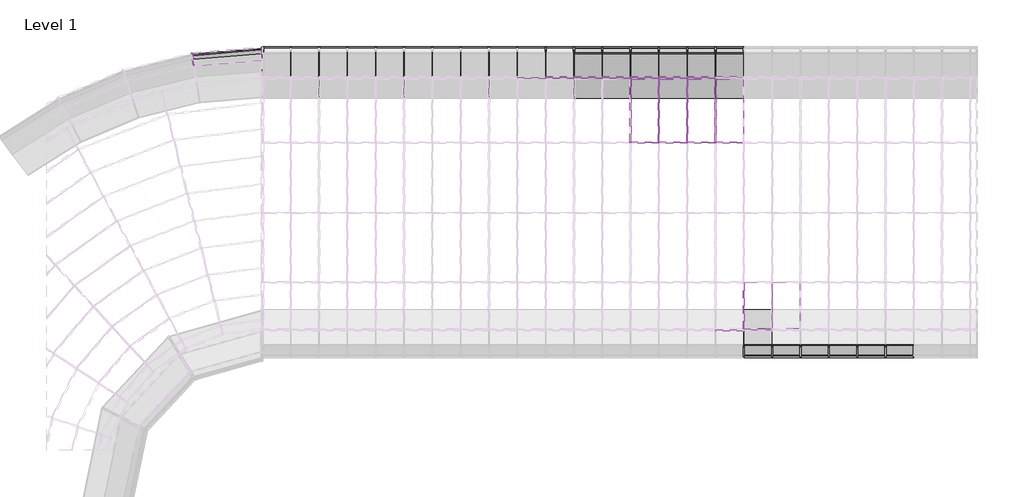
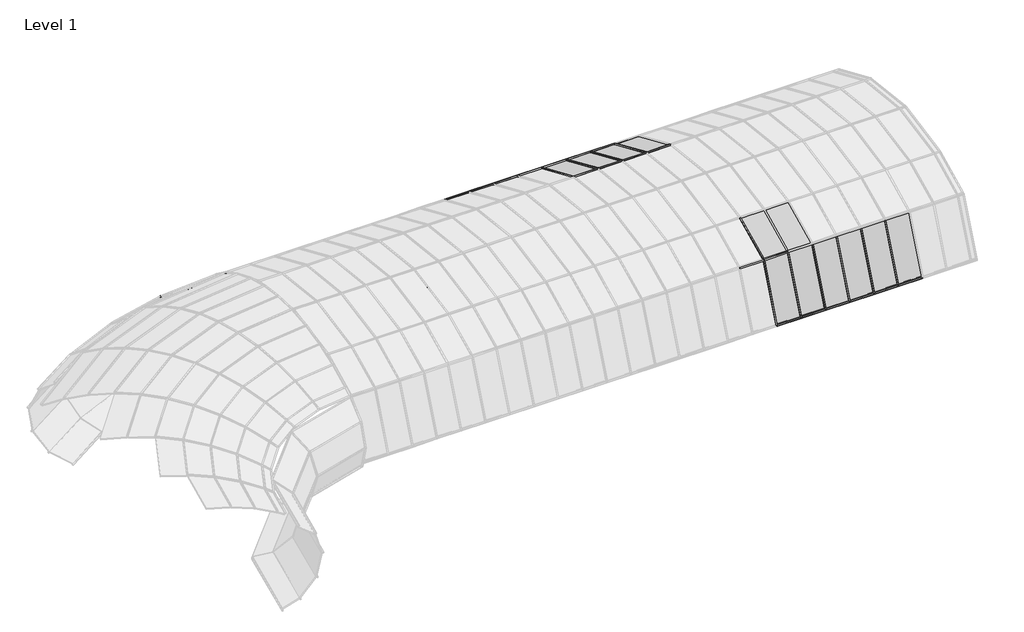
# One storey, part 20 of 23: 91 members, 27 plates.
"""IFC4 building model written with IfcOpenShell, lengths in millimetres."""

from ifc_helpers import new_model, si_unit, origin, place, context, project, spatial, transform, mapped, element, save
from components import member_11ccf896, member_68981e21, member_3e1f1dd8, member_391bee44, member_a479caf8, member_a09e3960, member_0f8f75f6, member_42213d33, member_14e241b9, member_67cfadff, member_9fdc8c74, system_panel_glazed_51f493bd, system_panel_glazed_a1f64e1d, system_panel_glazed_3957fabc, system_panel_glazed_b572a165, system_panel_glazed_7de0f96e

model = new_model("IFC4")

# Units and contexts
model_context = context("Model", 3, world=origin())
ifc_project = project(units=[si_unit("LENGTHUNIT", "METRE", prefix="MILLI")], contexts=[model_context])

# Site, building, storey
site = spatial("IfcSite", under=ifc_project)
building = spatial("IfcBuilding", under=site)
storey = spatial("IfcBuildingStorey", under=building, Name="Level 1", Elevation=0.0)

# Members
placement = place(None, origin())
member_shape = member_11ccf896(model_context)
element("IfcMember", 1, ObjectType="Rectangular Mullion : 1\" Square", at=placement, inside=storey, context=model_context, shape_type="MappedRepresentation", body=[
    mapped(member_shape, transform((-11421.4484397, 8068.4801793, 1232.5089476), x_axis=(0.010719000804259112, -0.13353091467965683, 0.9909866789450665), y_axis=(-0.07929494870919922, 0.9878091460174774, 0.13396044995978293), z_axis=(-0.9967935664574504, -0.08001616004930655, 0.0))),
])
member_2_shape = member_68981e21(model_context)
element("IfcMember", 2, ObjectType="Rectangular Mullion : 1\" Square", at=placement, inside=storey, context=model_context, shape_type="MappedRepresentation", body=[
    mapped(member_2_shape, transform((450.2500186, 2539.8807303, 0.0), x_axis=(0.0, 0.8307182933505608, -0.5566930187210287), y_axis=(0.0, -0.5566930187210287, -0.8307182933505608), z_axis=(-1.0, 0.0, 0.0))),
])
element("IfcMember", 3, ObjectType="Rectangular Mullion : 1\" Square", at=placement, inside=storey, context=model_context, shape_type="MappedRepresentation", body=[
    mapped(member_2_shape, transform((-3207.3499814, 7543.2525753, 2085.6089632), x_axis=(0.0, 0.9167487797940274, -0.3994642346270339), y_axis=(0.0, 0.3994642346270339, 0.9167487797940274), z_axis=(1.0, 0.0, 0.0))),
])
element("IfcMember", 4, ObjectType="Rectangular Mullion : 1\" Square", at=placement, inside=storey, context=model_context, shape_type="MappedRepresentation", body=[
    mapped(member_2_shape, transform((-2597.7499814, 7543.2525753, 2085.6089632), x_axis=(0.0, 0.9167487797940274, -0.3994642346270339), y_axis=(0.0, 0.3994642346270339, 0.9167487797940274), z_axis=(1.0, 0.0, 0.0))),
])
element("IfcMember", 5, ObjectType="Rectangular Mullion : 1\" Square", at=placement, inside=storey, context=model_context, shape_type="MappedRepresentation", body=[
    mapped(member_2_shape, transform((-1988.1499814, 7543.2525753, 2085.6089632), x_axis=(0.0, 0.9167487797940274, -0.3994642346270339), y_axis=(0.0, 0.3994642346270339, 0.9167487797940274), z_axis=(1.0, 0.0, 0.0))),
])
element("IfcMember", 6, ObjectType="Rectangular Mullion : 1\" Square", at=placement, inside=storey, context=model_context, shape_type="MappedRepresentation", body=[
    mapped(member_2_shape, transform((-1378.5499814, 7543.2525753, 2085.6089632), x_axis=(0.0, 0.9167487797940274, -0.3994642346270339), y_axis=(0.0, 0.3994642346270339, 0.9167487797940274), z_axis=(1.0, 0.0, 0.0))),
])
element("IfcMember", 7, ObjectType="Rectangular Mullion : 1\" Square", at=placement, inside=storey, context=model_context, shape_type="MappedRepresentation", body=[
    mapped(member_2_shape, transform((-768.9499814, 7543.2525753, 2085.6089632), x_axis=(0.0, 0.9167487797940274, -0.3994642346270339), y_axis=(0.0, 0.3994642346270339, 0.9167487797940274), z_axis=(1.0, 0.0, 0.0))),
])
element("IfcMember", 8, ObjectType="Rectangular Mullion : 1\" Square", at=placement, inside=storey, context=model_context, shape_type="MappedRepresentation", body=[
    mapped(member_2_shape, transform((-159.3499814, 7543.2525753, 2085.6089632), x_axis=(0.0, 0.9167487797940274, -0.3994642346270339), y_axis=(0.0, 0.3994642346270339, 0.9167487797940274), z_axis=(1.0, 0.0, 0.0))),
])
element("IfcMember", 9, ObjectType="Rectangular Mullion : 1\" Square", at=placement, inside=storey, context=model_context, shape_type="MappedRepresentation", body=[
    mapped(member_2_shape, transform((450.2500186, 2108.5088854, 2085.6089632), x_axis=(0.0, -0.9009025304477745, -0.43402146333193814), y_axis=(0.0, -0.43402146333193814, 0.9009025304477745), z_axis=(-1.0, 0.0, 0.0))),
])
element("IfcMember", 10, ObjectType="Rectangular Mullion : 1\" Square", at=placement, inside=storey, context=model_context, shape_type="MappedRepresentation", body=[
    mapped(member_2_shape, transform((-3816.9499814, 7543.2525753, 2085.6089632), x_axis=(0.0, 0.9167487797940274, -0.3994642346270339), y_axis=(0.0, 0.3994642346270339, 0.9167487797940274), z_axis=(1.0, 0.0, 0.0))),
])
element("IfcMember", 11, ObjectType="Rectangular Mullion : 1\" Square", at=placement, inside=storey, context=model_context, shape_type="MappedRepresentation", body=[
    mapped(member_2_shape, transform((-1378.5499814, 7111.8807303, 0.0), x_axis=(0.0, -0.7134126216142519, -0.7007441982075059), y_axis=(0.0, 0.7007441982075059, -0.7134126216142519), z_axis=(1.0, 0.0, 0.0))),
])
element("IfcMember", 12, ObjectType="Rectangular Mullion : 1\" Square", at=placement, inside=storey, context=model_context, shape_type="MappedRepresentation", body=[
    mapped(member_2_shape, transform((-768.9499814, 7111.8807303, 0.0), x_axis=(0.0, -0.7134126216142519, -0.7007441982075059), y_axis=(0.0, 0.7007441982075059, -0.7134126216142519), z_axis=(1.0, 0.0, 0.0))),
])
element("IfcMember", 13, ObjectType="Rectangular Mullion : 1\" Square", at=placement, inside=storey, context=model_context, shape_type="MappedRepresentation", body=[
    mapped(member_2_shape, transform((-159.3499814, 7111.8807303, 0.0), x_axis=(0.0, -0.7134126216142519, -0.7007441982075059), y_axis=(0.0, 0.7007441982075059, -0.7134126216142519), z_axis=(1.0, 0.0, 0.0))),
])
element("IfcMember", 14, ObjectType="Rectangular Mullion : 1\" Square", at=placement, inside=storey, context=model_context, shape_type="MappedRepresentation", body=[
    mapped(member_2_shape, transform((-3816.9499814, 7111.8807303, 0.0), x_axis=(0.0, -0.7134126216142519, -0.7007441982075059), y_axis=(0.0, 0.7007441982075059, -0.7134126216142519), z_axis=(1.0, 0.0, 0.0))),
])
element("IfcMember", 15, ObjectType="Rectangular Mullion : 1\" Square", at=placement, inside=storey, context=model_context, shape_type="MappedRepresentation", body=[
    mapped(member_2_shape, transform((-3207.3499814, 7111.8807303, 0.0), x_axis=(0.0, -0.7134126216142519, -0.7007441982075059), y_axis=(0.0, 0.7007441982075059, -0.7134126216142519), z_axis=(1.0, 0.0, 0.0))),
])
element("IfcMember", 16, ObjectType="Rectangular Mullion : 1\" Square", at=placement, inside=storey, context=model_context, shape_type="MappedRepresentation", body=[
    mapped(member_2_shape, transform((-2597.7499814, 7111.8807303, 0.0), x_axis=(0.0, -0.7134126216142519, -0.7007441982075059), y_axis=(0.0, 0.7007441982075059, -0.7134126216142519), z_axis=(1.0, 0.0, 0.0))),
])
element("IfcMember", 17, ObjectType="Rectangular Mullion : 1\" Square", at=placement, inside=storey, context=model_context, shape_type="MappedRepresentation", body=[
    mapped(member_2_shape, transform((-1988.1499814, 7111.8807303, 0.0), x_axis=(0.0, -0.7134126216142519, -0.7007441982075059), y_axis=(0.0, 0.7007441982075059, -0.7134126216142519), z_axis=(1.0, 0.0, 0.0))),
])
member_3_shape = member_3e1f1dd8(model_context)
element("IfcMember", 18, ObjectType="Rectangular Mullion : 1\" Square", at=placement, inside=storey, context=model_context, shape_type="MappedRepresentation", body=[
    mapped(member_3_shape, transform((450.2500186, 1534.1192339, 673.9955146), x_axis=(0.0, 0.38018576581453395, -0.9249101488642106), y_axis=(0.0, -0.9249101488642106, -0.38018576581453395), z_axis=(-1.0, 0.0, 0.0))),
])
element("IfcMember", 19, ObjectType="Rectangular Mullion : 1\" Square", at=placement, inside=storey, context=model_context, shape_type="MappedRepresentation", body=[
    mapped(member_3_shape, transform((1059.8500186, 1534.1192339, 673.9955146), x_axis=(0.0, 0.38018576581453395, -0.9249101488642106), y_axis=(0.0, -0.9249101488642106, -0.38018576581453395), z_axis=(-1.0, 0.0, 0.0))),
])
element("IfcMember", 20, ObjectType="Rectangular Mullion : 1\" Square", at=placement, inside=storey, context=model_context, shape_type="MappedRepresentation", body=[
    mapped(member_3_shape, transform((1669.4500186, 1534.1192339, 673.9955146), x_axis=(0.0, 0.38018576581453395, -0.9249101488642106), y_axis=(0.0, -0.9249101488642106, -0.38018576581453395), z_axis=(-1.0, 0.0, 0.0))),
])
element("IfcMember", 21, ObjectType="Rectangular Mullion : 1\" Square", at=placement, inside=storey, context=model_context, shape_type="MappedRepresentation", body=[
    mapped(member_3_shape, transform((2279.0500186, 1534.1192339, 673.9955146), x_axis=(0.0, 0.38018576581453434, -0.9249101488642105), y_axis=(0.0, -0.9249101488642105, -0.38018576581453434), z_axis=(-1.0, 0.0, 0.0))),
])
element("IfcMember", 22, ObjectType="Rectangular Mullion : 1\" Square", at=placement, inside=storey, context=model_context, shape_type="MappedRepresentation", body=[
    mapped(member_3_shape, transform((2888.6500186, 1534.1192339, 673.9955146), x_axis=(0.0, 0.38018576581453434, -0.9249101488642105), y_axis=(0.0, -0.9249101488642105, -0.38018576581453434), z_axis=(-1.0, 0.0, 0.0))),
])
element("IfcMember", 23, ObjectType="Rectangular Mullion : 1\" Square", at=placement, inside=storey, context=model_context, shape_type="MappedRepresentation", body=[
    mapped(member_3_shape, transform((3498.2500186, 1534.1192339, 673.9955146), x_axis=(0.0, 0.38018576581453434, -0.9249101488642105), y_axis=(0.0, -0.9249101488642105, -0.38018576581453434), z_axis=(-1.0, 0.0, 0.0))),
])
element("IfcMember", 24, ObjectType="Rectangular Mullion : 1\" Square", at=placement, inside=storey, context=model_context, shape_type="MappedRepresentation", body=[
    mapped(member_2_shape, transform((450.2500186, 2108.5088854, 2085.6089632), x_axis=(0.0, 0.3768960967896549, 0.9262555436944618), y_axis=(0.0, -0.9262555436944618, 0.3768960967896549), z_axis=(1.0, 0.0, 0.0))),
])
element("IfcMember", 25, ObjectType="Rectangular Mullion : 1\" Square", at=placement, inside=storey, context=model_context, shape_type="MappedRepresentation", body=[
    mapped(member_2_shape, transform((-3816.9499814, 7543.2525753, 2085.6089632), x_axis=(0.0, -0.5417212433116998, 0.8405582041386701), y_axis=(0.0, 0.8405582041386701, 0.5417212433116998), z_axis=(-1.0, 0.0, 0.0))),
])
element("IfcMember", 26, ObjectType="Rectangular Mullion : 1\" Square", at=placement, inside=storey, context=model_context, shape_type="MappedRepresentation", body=[
    mapped(member_2_shape, transform((-3207.3499814, 7543.2525753, 2085.6089632), x_axis=(0.0, -0.5417212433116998, 0.8405582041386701), y_axis=(0.0, 0.8405582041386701, 0.5417212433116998), z_axis=(-1.0, 0.0, 0.0))),
])
element("IfcMember", 27, ObjectType="Rectangular Mullion : 1\" Square", at=placement, inside=storey, context=model_context, shape_type="MappedRepresentation", body=[
    mapped(member_2_shape, transform((-2597.7499814, 7543.2525753, 2085.6089632), x_axis=(0.0, -0.5417212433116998, 0.8405582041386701), y_axis=(0.0, 0.8405582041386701, 0.5417212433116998), z_axis=(-1.0, 0.0, 0.0))),
])
element("IfcMember", 28, ObjectType="Rectangular Mullion : 1\" Square", at=placement, inside=storey, context=model_context, shape_type="MappedRepresentation", body=[
    mapped(member_2_shape, transform((-1988.1499814, 7543.2525753, 2085.6089632), x_axis=(0.0, -0.5417212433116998, 0.8405582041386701), y_axis=(0.0, 0.8405582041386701, 0.5417212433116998), z_axis=(-1.0, 0.0, 0.0))),
])
element("IfcMember", 29, ObjectType="Rectangular Mullion : 1\" Square", at=placement, inside=storey, context=model_context, shape_type="MappedRepresentation", body=[
    mapped(member_2_shape, transform((-1378.5499814, 7543.2525753, 2085.6089632), x_axis=(0.0, -0.5417212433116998, 0.8405582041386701), y_axis=(0.0, 0.8405582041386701, 0.5417212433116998), z_axis=(-1.0, 0.0, 0.0))),
])
element("IfcMember", 30, ObjectType="Rectangular Mullion : 1\" Square", at=placement, inside=storey, context=model_context, shape_type="MappedRepresentation", body=[
    mapped(member_2_shape, transform((-768.9499814, 7543.2525753, 2085.6089632), x_axis=(0.0, -0.5417212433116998, 0.8405582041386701), y_axis=(0.0, 0.8405582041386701, 0.5417212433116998), z_axis=(-1.0, 0.0, 0.0))),
])
element("IfcMember", 31, ObjectType="Rectangular Mullion : 1\" Square", at=placement, inside=storey, context=model_context, shape_type="MappedRepresentation", body=[
    mapped(member_2_shape, transform((-159.3499814, 7543.2525753, 2085.6089632), x_axis=(0.0, -0.5417212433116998, 0.8405582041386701), y_axis=(0.0, 0.8405582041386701, 0.5417212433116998), z_axis=(-1.0, 0.0, 0.0))),
])
element("IfcMember", 32, ObjectType="Rectangular Mullion : 1\" Square", at=placement, inside=storey, context=model_context, shape_type="MappedRepresentation", body=[
    mapped(member_3_shape, transform((-1988.1499814, 6146.1274349, 2694.3924567), x_axis=(0.0, -0.9660596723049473, 0.25831900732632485), y_axis=(0.0, 0.25831900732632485, 0.9660596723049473), z_axis=(-1.0, 0.0, 0.0))),
])
element("IfcMember", 33, ObjectType="Rectangular Mullion : 1\" Square", at=placement, inside=storey, context=model_context, shape_type="MappedRepresentation", body=[
    mapped(member_3_shape, transform((-1378.5499814, 6146.1274349, 2694.3924567), x_axis=(0.0, -0.9660596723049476, 0.258319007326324), y_axis=(0.0, 0.258319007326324, 0.9660596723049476), z_axis=(-1.0, 0.0, 0.0))),
])
element("IfcMember", 34, ObjectType="Rectangular Mullion : 1\" Square", at=placement, inside=storey, context=model_context, shape_type="MappedRepresentation", body=[
    mapped(member_3_shape, transform((-768.9499814, 6146.1274349, 2694.3924567), x_axis=(0.0, -0.9660596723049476, 0.258319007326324), y_axis=(0.0, 0.258319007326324, 0.9660596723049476), z_axis=(-1.0, 0.0, 0.0))),
])
element("IfcMember", 35, ObjectType="Rectangular Mullion : 1\" Square", at=placement, inside=storey, context=model_context, shape_type="MappedRepresentation", body=[
    mapped(member_3_shape, transform((-159.3499814, 6146.1274349, 2694.3924567), x_axis=(0.0, -0.9660596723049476, 0.258319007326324), y_axis=(0.0, 0.258319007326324, 0.9660596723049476), z_axis=(-1.0, 0.0, 0.0))),
])
element("IfcMember", 36, ObjectType="Rectangular Mullion : 1\" Square", at=placement, inside=storey, context=model_context, shape_type="MappedRepresentation", body=[
    mapped(member_3_shape, transform((-9303.3499814, 8199.1215657, 1067.9341581), x_axis=(0.0, 0.017915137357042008, 0.9998395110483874), y_axis=(0.0, 0.9998395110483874, -0.017915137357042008), z_axis=(-1.0, 0.0, 0.0))),
])
element("IfcMember", 37, ObjectType="Rectangular Mullion : 1\" Square", at=placement, inside=storey, context=model_context, shape_type="MappedRepresentation", body=[
    mapped(member_3_shape, transform((-8693.7499814, 8199.1215657, 1067.9341581), x_axis=(0.0, 0.017915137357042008, 0.9998395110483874), y_axis=(0.0, 0.9998395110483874, -0.017915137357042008), z_axis=(-1.0, 0.0, 0.0))),
])
element("IfcMember", 38, ObjectType="Rectangular Mullion : 1\" Square", at=placement, inside=storey, context=model_context, shape_type="MappedRepresentation", body=[
    mapped(member_3_shape, transform((-8084.1499814, 8199.1215657, 1067.9341581), x_axis=(0.0, 0.017915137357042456, 0.9998395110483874), y_axis=(0.0, 0.9998395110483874, -0.017915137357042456), z_axis=(-1.0, 0.0, 0.0))),
])
element("IfcMember", 39, ObjectType="Rectangular Mullion : 1\" Square", at=placement, inside=storey, context=model_context, shape_type="MappedRepresentation", body=[
    mapped(member_3_shape, transform((-7474.5499814, 8199.1215657, 1067.9341581), x_axis=(0.0, 0.017915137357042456, 0.9998395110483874), y_axis=(0.0, 0.9998395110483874, -0.017915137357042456), z_axis=(-1.0, 0.0, 0.0))),
])
element("IfcMember", 40, ObjectType="Rectangular Mullion : 1\" Square", at=placement, inside=storey, context=model_context, shape_type="MappedRepresentation", body=[
    mapped(member_3_shape, transform((-6864.9499814, 8199.1215657, 1067.9341581), x_axis=(0.0, 0.017915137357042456, 0.9998395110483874), y_axis=(0.0, 0.9998395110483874, -0.017915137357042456), z_axis=(-1.0, 0.0, 0.0))),
])
element("IfcMember", 41, ObjectType="Rectangular Mullion : 1\" Square", at=placement, inside=storey, context=model_context, shape_type="MappedRepresentation", body=[
    mapped(member_3_shape, transform((-6255.3499814, 8199.1215657, 1067.9341581), x_axis=(0.0, 0.017915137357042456, 0.9998395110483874), y_axis=(0.0, 0.9998395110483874, -0.017915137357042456), z_axis=(-1.0, 0.0, 0.0))),
])
element("IfcMember", 42, ObjectType="Rectangular Mullion : 1\" Square", at=placement, inside=storey, context=model_context, shape_type="MappedRepresentation", body=[
    mapped(member_3_shape, transform((-5645.7499814, 8199.1215657, 1067.9341581), x_axis=(0.0, 0.017915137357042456, 0.9998395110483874), y_axis=(0.0, 0.9998395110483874, -0.017915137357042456), z_axis=(-1.0, 0.0, 0.0))),
])
element("IfcMember", 43, ObjectType="Rectangular Mullion : 1\" Square", at=placement, inside=storey, context=model_context, shape_type="MappedRepresentation", body=[
    mapped(member_3_shape, transform((-5036.1499814, 8199.1215657, 1067.9341581), x_axis=(0.0, 0.017915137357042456, 0.9998395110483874), y_axis=(0.0, 0.9998395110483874, -0.017915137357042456), z_axis=(-1.0, 0.0, 0.0))),
])
element("IfcMember", 44, ObjectType="Rectangular Mullion : 1\" Square", at=placement, inside=storey, context=model_context, shape_type="MappedRepresentation", body=[
    mapped(member_3_shape, transform((-4426.5499814, 8199.1215657, 1067.9341581), x_axis=(0.0, 0.017915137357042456, 0.9998395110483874), y_axis=(0.0, 0.9998395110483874, -0.017915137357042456), z_axis=(-1.0, 0.0, 0.0))),
])
element("IfcMember", 45, ObjectType="Rectangular Mullion : 1\" Square", at=placement, inside=storey, context=model_context, shape_type="MappedRepresentation", body=[
    mapped(member_3_shape, transform((-3816.9499814, 8199.1215657, 1067.9341581), x_axis=(0.0, 0.017915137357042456, 0.9998395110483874), y_axis=(0.0, 0.9998395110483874, -0.017915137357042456), z_axis=(-1.0, 0.0, 0.0))),
])
element("IfcMember", 46, ObjectType="Rectangular Mullion : 1\" Square", at=placement, inside=storey, context=model_context, shape_type="MappedRepresentation", body=[
    mapped(member_3_shape, transform((-3207.3499814, 8199.1215657, 1067.9341581), x_axis=(0.0, 0.017915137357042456, 0.9998395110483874), y_axis=(0.0, 0.9998395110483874, -0.017915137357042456), z_axis=(-1.0, 0.0, 0.0))),
])
element("IfcMember", 47, ObjectType="Rectangular Mullion : 1\" Square", at=placement, inside=storey, context=model_context, shape_type="MappedRepresentation", body=[
    mapped(member_3_shape, transform((-2597.7499814, 8199.1215657, 1067.9341581), x_axis=(0.0, 0.017915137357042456, 0.9998395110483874), y_axis=(0.0, 0.9998395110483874, -0.017915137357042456), z_axis=(-1.0, 0.0, 0.0))),
])
element("IfcMember", 48, ObjectType="Rectangular Mullion : 1\" Square", at=placement, inside=storey, context=model_context, shape_type="MappedRepresentation", body=[
    mapped(member_3_shape, transform((-1988.1499814, 8199.1215657, 1067.9341581), x_axis=(0.0, 0.017915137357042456, 0.9998395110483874), y_axis=(0.0, 0.9998395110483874, -0.017915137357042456), z_axis=(-1.0, 0.0, 0.0))),
])
element("IfcMember", 49, ObjectType="Rectangular Mullion : 1\" Square", at=placement, inside=storey, context=model_context, shape_type="MappedRepresentation", body=[
    mapped(member_3_shape, transform((-1378.5499814, 8199.1215657, 1067.9341581), x_axis=(0.0, 0.017915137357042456, 0.9998395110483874), y_axis=(0.0, 0.9998395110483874, -0.017915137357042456), z_axis=(-1.0, 0.0, 0.0))),
])
element("IfcMember", 50, ObjectType="Rectangular Mullion : 1\" Square", at=placement, inside=storey, context=model_context, shape_type="MappedRepresentation", body=[
    mapped(member_3_shape, transform((-768.9499814, 8199.1215657, 1067.9341581), x_axis=(0.0, 0.017915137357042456, 0.9998395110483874), y_axis=(0.0, 0.9998395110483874, -0.017915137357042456), z_axis=(-1.0, 0.0, 0.0))),
])
element("IfcMember", 51, ObjectType="Rectangular Mullion : 1\" Square", at=placement, inside=storey, context=model_context, shape_type="MappedRepresentation", body=[
    mapped(member_3_shape, transform((-159.3499814, 8199.1215657, 1067.9341581), x_axis=(0.0, 0.017915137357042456, 0.9998395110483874), y_axis=(0.0, 0.9998395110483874, -0.017915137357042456), z_axis=(-1.0, 0.0, 0.0))),
])
element("IfcMember", 52, ObjectType="Rectangular Mullion : 1\" Square", at=placement, inside=storey, context=model_context, shape_type="MappedRepresentation", body=[
    mapped(member_3_shape, transform((-9912.9499814, 8199.1215657, 1067.9341581), x_axis=(0.0, 0.017915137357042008, 0.9998395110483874), y_axis=(0.0, 0.9998395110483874, -0.017915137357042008), z_axis=(-1.0, 0.0, 0.0))),
])
member_4_shape = member_391bee44(model_context)
element("IfcMember", 53, ObjectType="Rectangular Mullion : 1\" Square", at=placement, inside=storey, context=model_context, shape_type="MappedRepresentation", body=[
    mapped(member_4_shape, transform((-11434.107718, 8067.4639741, 1232.5089476), x_axis=(-0.9871948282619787, -0.15951918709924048, 0.0), y_axis=(-0.1457893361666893, 0.9022267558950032, 0.4058723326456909), z_axis=(-0.0647444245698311, 0.40067506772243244, -0.913929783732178))),
])
member_5_shape = member_a479caf8(model_context)
element("IfcMember", 54, ObjectType="Rectangular Mullion : 1\" Square", at=placement, inside=storey, context=model_context, shape_type="MappedRepresentation", body=[
    mapped(member_5_shape, transform((-9912.9499814, 8098.3092895, 629.7792003), x_axis=(0.9981790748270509, 0.045409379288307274, -0.039705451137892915), y_axis=(-0.060320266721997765, 0.7514338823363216, -0.6570453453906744), z_axis=(0.0, 0.6582439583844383, 0.7528046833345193))),
])
member_6_shape = member_a09e3960(model_context)
element("IfcMember", 55, ObjectType="Rectangular Mullion : 1\" Square", at=placement, inside=storey, context=model_context, shape_type="MappedRepresentation", body=[
    mapped(member_6_shape, transform((-9912.9499814, 8189.5727086, 1232.5089476), x_axis=(0.996865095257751, 0.07822835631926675, -0.011845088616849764), y_axis=(-0.07912004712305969, 0.9856303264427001, -0.14924100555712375), z_axis=(0.0, 0.14971033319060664, 0.9887299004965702))),
])
member_7_shape = member_0f8f75f6(model_context)
element("IfcMember", 56, ObjectType="Rectangular Mullion : 1\" Square", at=placement, inside=storey, context=model_context, shape_type="MappedRepresentation", body=[
    mapped(member_7_shape, transform((450.2500186, 2518.7804857, 14.1400027), x_axis=(1.0, 0.0, 0.0), y_axis=(0.0, -0.5566930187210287, -0.8307182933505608), z_axis=(0.0, 0.8307182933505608, -0.5566930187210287))),
])
member_8_shape = member_42213d33(model_context)
element("IfcMember", 57, ObjectType="Rectangular Mullion : 1\" Square", at=placement, inside=storey, context=model_context, shape_type="MappedRepresentation", body=[
    mapped(member_8_shape, transform((450.2500186, 1538.9058143, 685.75896), x_axis=(1.0, 0.0, 0.0), y_axis=(0.0, -0.9262555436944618, 0.3768960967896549), z_axis=(0.0, -0.3768960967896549, -0.9262555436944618))),
])
element("IfcMember", 58, ObjectType="Rectangular Mullion : 1\" Square", at=placement, inside=storey, context=model_context, shape_type="MappedRepresentation", body=[
    mapped(member_8_shape, transform((1059.8500186, 1538.9058143, 685.75896), x_axis=(1.0, 0.0, 0.0), y_axis=(0.0, -0.9262555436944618, 0.3768960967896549), z_axis=(0.0, -0.3768960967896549, -0.9262555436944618))),
])
element("IfcMember", 59, ObjectType="Rectangular Mullion : 1\" Square", at=placement, inside=storey, context=model_context, shape_type="MappedRepresentation", body=[
    mapped(member_8_shape, transform((1669.4500186, 1538.9058143, 685.75896), x_axis=(1.0, 0.0, 0.0), y_axis=(0.0, -0.9262555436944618, 0.3768960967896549), z_axis=(0.0, -0.3768960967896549, -0.9262555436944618))),
])
element("IfcMember", 60, ObjectType="Rectangular Mullion : 1\" Square", at=placement, inside=storey, context=model_context, shape_type="MappedRepresentation", body=[
    mapped(member_8_shape, transform((2279.0500186, 1538.9058143, 685.75896), x_axis=(1.0, 0.0, 0.0), y_axis=(0.0, -0.9262555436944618, 0.376896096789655), z_axis=(0.0, -0.37689609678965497, -0.9262555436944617))),
])
element("IfcMember", 61, ObjectType="Rectangular Mullion : 1\" Square", at=placement, inside=storey, context=model_context, shape_type="MappedRepresentation", body=[
    mapped(member_8_shape, transform((2888.6500186, 1538.9058143, 685.75896), x_axis=(1.0, 0.0, 0.0), y_axis=(0.0, -0.9262555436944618, 0.376896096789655), z_axis=(0.0, -0.37689609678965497, -0.9262555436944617))),
])
element("IfcMember", 62, ObjectType="Rectangular Mullion : 1\" Square", at=placement, inside=storey, context=model_context, shape_type="MappedRepresentation", body=[
    mapped(member_8_shape, transform((3498.2500186, 1538.9058143, 685.75896), x_axis=(1.0, 0.0, 0.0), y_axis=(0.0, -0.9262555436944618, 0.376896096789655), z_axis=(0.0, -0.37689609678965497, -0.9262555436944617))),
])
member_9_shape = member_14e241b9(model_context)
element("IfcMember", 63, ObjectType="Rectangular Mullion : 1\" Square", at=placement, inside=storey, context=model_context, shape_type="MappedRepresentation", body=[
    mapped(member_9_shape, transform((450.2500186, 2131.3918096, 2096.6331083), x_axis=(1.0, 0.0, 0.0), y_axis=(0.0, -0.43402146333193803, 0.9009025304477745), z_axis=(0.0, -0.9009025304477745, -0.43402146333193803))),
])
member_10_shape = member_67cfadff(model_context)
element("IfcMember", 64, ObjectType="Rectangular Mullion : 1\" Square", at=placement, inside=storey, context=model_context, shape_type="MappedRepresentation", body=[
    mapped(member_10_shape, transform((-1988.1499814, 6157.7701444, 2689.3192609), x_axis=(1.0, 0.0, 0.0), y_axis=(0.0, 0.39946423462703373, 0.9167487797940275), z_axis=(0.0, -0.9167487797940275, 0.39946423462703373))),
])
element("IfcMember", 65, ObjectType="Rectangular Mullion : 1\" Square", at=placement, inside=storey, context=model_context, shape_type="MappedRepresentation", body=[
    mapped(member_10_shape, transform((-1378.5499814, 6157.7701444, 2689.3192609), x_axis=(1.0, 0.0, 0.0), y_axis=(0.0, 0.39946423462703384, 0.9167487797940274), z_axis=(0.0, -0.9167487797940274, 0.39946423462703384))),
])
element("IfcMember", 66, ObjectType="Rectangular Mullion : 1\" Square", at=placement, inside=storey, context=model_context, shape_type="MappedRepresentation", body=[
    mapped(member_10_shape, transform((-768.9499814, 6157.7701444, 2689.3192609), x_axis=(1.0, 0.0, 0.0), y_axis=(0.0, 0.39946423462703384, 0.9167487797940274), z_axis=(0.0, -0.9167487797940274, 0.39946423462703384))),
])
element("IfcMember", 67, ObjectType="Rectangular Mullion : 1\" Square", at=placement, inside=storey, context=model_context, shape_type="MappedRepresentation", body=[
    mapped(member_10_shape, transform((-159.3499814, 6157.7701444, 2689.3192609), x_axis=(1.0, 0.0, 0.0), y_axis=(0.0, 0.39946423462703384, 0.9167487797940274), z_axis=(0.0, -0.9167487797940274, 0.39946423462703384))),
])
element("IfcMember", 68, ObjectType="Rectangular Mullion : 1\" Square", at=placement, inside=storey, context=model_context, shape_type="MappedRepresentation", body=[
    mapped(member_8_shape, transform((-3207.3499814, 8190.0612254, 1059.0347068), x_axis=(1.0, 0.0, 0.0), y_axis=(0.0, 0.700744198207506, -0.7134126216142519), z_axis=(0.0, 0.7134126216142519, 0.700744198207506))),
])
element("IfcMember", 69, ObjectType="Rectangular Mullion : 1\" Square", at=placement, inside=storey, context=model_context, shape_type="MappedRepresentation", body=[
    mapped(member_8_shape, transform((-2597.7499814, 8190.0612254, 1059.0347068), x_axis=(1.0, 0.0, 0.0), y_axis=(0.0, 0.700744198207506, -0.7134126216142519), z_axis=(0.0, 0.7134126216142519, 0.700744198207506))),
])
element("IfcMember", 70, ObjectType="Rectangular Mullion : 1\" Square", at=placement, inside=storey, context=model_context, shape_type="MappedRepresentation", body=[
    mapped(member_8_shape, transform((-1988.1499814, 8190.0612254, 1059.0347068), x_axis=(1.0, 0.0, 0.0), y_axis=(0.0, 0.700744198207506, -0.7134126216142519), z_axis=(0.0, 0.7134126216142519, 0.700744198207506))),
])
element("IfcMember", 71, ObjectType="Rectangular Mullion : 1\" Square", at=placement, inside=storey, context=model_context, shape_type="MappedRepresentation", body=[
    mapped(member_8_shape, transform((-1378.5499814, 8190.0612254, 1059.0347068), x_axis=(1.0, 0.0, 0.0), y_axis=(0.0, 0.700744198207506, -0.7134126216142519), z_axis=(0.0, 0.7134126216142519, 0.700744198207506))),
])
element("IfcMember", 72, ObjectType="Rectangular Mullion : 1\" Square", at=placement, inside=storey, context=model_context, shape_type="MappedRepresentation", body=[
    mapped(member_8_shape, transform((-768.9499814, 8190.0612254, 1059.0347068), x_axis=(1.0, 0.0, 0.0), y_axis=(0.0, 0.700744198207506, -0.7134126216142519), z_axis=(0.0, 0.7134126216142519, 0.700744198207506))),
])
element("IfcMember", 73, ObjectType="Rectangular Mullion : 1\" Square", at=placement, inside=storey, context=model_context, shape_type="MappedRepresentation", body=[
    mapped(member_8_shape, transform((-159.3499814, 8190.0612254, 1059.0347068), x_axis=(1.0, 0.0, 0.0), y_axis=(0.0, 0.700744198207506, -0.7134126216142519), z_axis=(0.0, 0.7134126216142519, 0.700744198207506))),
])
element("IfcMember", 74, ObjectType="Rectangular Mullion : 1\" Square", at=placement, inside=storey, context=model_context, shape_type="MappedRepresentation", body=[
    mapped(member_8_shape, transform((-6255.3499814, 8190.0612254, 1059.0347068), x_axis=(1.0, 0.0, 0.0), y_axis=(0.0, 0.700744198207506, -0.7134126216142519), z_axis=(0.0, 0.7134126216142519, 0.700744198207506))),
])
element("IfcMember", 75, ObjectType="Rectangular Mullion : 1\" Square", at=placement, inside=storey, context=model_context, shape_type="MappedRepresentation", body=[
    mapped(member_8_shape, transform((-6864.9499814, 8190.0612254, 1059.0347068), x_axis=(1.0, 0.0, 0.0), y_axis=(0.0, 0.700744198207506, -0.7134126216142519), z_axis=(0.0, 0.7134126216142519, 0.700744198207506))),
])
element("IfcMember", 76, ObjectType="Rectangular Mullion : 1\" Square", at=placement, inside=storey, context=model_context, shape_type="MappedRepresentation", body=[
    mapped(member_8_shape, transform((-7474.5499814, 8190.0612254, 1059.0347068), x_axis=(1.0, 0.0, 0.0), y_axis=(0.0, 0.700744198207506, -0.7134126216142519), z_axis=(0.0, 0.7134126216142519, 0.700744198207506))),
])
element("IfcMember", 77, ObjectType="Rectangular Mullion : 1\" Square", at=placement, inside=storey, context=model_context, shape_type="MappedRepresentation", body=[
    mapped(member_8_shape, transform((-8084.1499814, 8190.0612254, 1059.0347068), x_axis=(1.0, 0.0, 0.0), y_axis=(0.0, 0.700744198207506, -0.7134126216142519), z_axis=(0.0, 0.7134126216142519, 0.700744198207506))),
])
element("IfcMember", 78, ObjectType="Rectangular Mullion : 1\" Square", at=placement, inside=storey, context=model_context, shape_type="MappedRepresentation", body=[
    mapped(member_8_shape, transform((-9303.3499814, 8190.0612254, 1059.0347068), x_axis=(1.0, 0.0, 0.0), y_axis=(0.0, 0.700744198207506, -0.7134126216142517), z_axis=(0.0, 0.7134126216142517, 0.700744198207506))),
])
element("IfcMember", 79, ObjectType="Rectangular Mullion : 1\" Square", at=placement, inside=storey, context=model_context, shape_type="MappedRepresentation", body=[
    mapped(member_8_shape, transform((-8693.7499814, 8190.0612254, 1059.0347068), x_axis=(1.0, 0.0, 0.0), y_axis=(0.0, 0.700744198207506, -0.7134126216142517), z_axis=(0.0, 0.7134126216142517, 0.700744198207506))),
])
element("IfcMember", 80, ObjectType="Rectangular Mullion : 1\" Square", at=placement, inside=storey, context=model_context, shape_type="MappedRepresentation", body=[
    mapped(member_8_shape, transform((-3816.9499814, 8190.0612254, 1059.0347068), x_axis=(1.0, 0.0, 0.0), y_axis=(0.0, 0.700744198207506, -0.7134126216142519), z_axis=(0.0, 0.7134126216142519, 0.700744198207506))),
])
element("IfcMember", 81, ObjectType="Rectangular Mullion : 1\" Square", at=placement, inside=storey, context=model_context, shape_type="MappedRepresentation", body=[
    mapped(member_8_shape, transform((-4426.5499814, 8190.0612254, 1059.0347068), x_axis=(1.0, 0.0, 0.0), y_axis=(0.0, 0.700744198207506, -0.7134126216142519), z_axis=(0.0, 0.7134126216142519, 0.700744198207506))),
])
element("IfcMember", 82, ObjectType="Rectangular Mullion : 1\" Square", at=placement, inside=storey, context=model_context, shape_type="MappedRepresentation", body=[
    mapped(member_8_shape, transform((-5036.1499814, 8190.0612254, 1059.0347068), x_axis=(1.0, 0.0, 0.0), y_axis=(0.0, 0.700744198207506, -0.7134126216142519), z_axis=(0.0, 0.7134126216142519, 0.700744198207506))),
])
element("IfcMember", 83, ObjectType="Rectangular Mullion : 1\" Square", at=placement, inside=storey, context=model_context, shape_type="MappedRepresentation", body=[
    mapped(member_8_shape, transform((-5645.7499814, 8190.0612254, 1059.0347068), x_axis=(1.0, 0.0, 0.0), y_axis=(0.0, 0.700744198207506, -0.7134126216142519), z_axis=(0.0, 0.7134126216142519, 0.700744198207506))),
])
element("IfcMember", 84, ObjectType="Rectangular Mullion : 1\" Square", at=placement, inside=storey, context=model_context, shape_type="MappedRepresentation", body=[
    mapped(member_7_shape, transform((-3207.3499814, 7557.0122949, 2064.2587848), x_axis=(1.0, 0.0, 0.0), y_axis=(0.0, 0.8405582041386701, 0.5417212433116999), z_axis=(0.0, -0.5417212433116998, 0.84055820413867))),
])
element("IfcMember", 85, ObjectType="Rectangular Mullion : 1\" Square", at=placement, inside=storey, context=model_context, shape_type="MappedRepresentation", body=[
    mapped(member_7_shape, transform((-2597.7499814, 7557.0122949, 2064.2587848), x_axis=(1.0, 0.0, 0.0), y_axis=(0.0, 0.8405582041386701, 0.5417212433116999), z_axis=(0.0, -0.5417212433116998, 0.84055820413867))),
])
element("IfcMember", 86, ObjectType="Rectangular Mullion : 1\" Square", at=placement, inside=storey, context=model_context, shape_type="MappedRepresentation", body=[
    mapped(member_7_shape, transform((-1988.1499814, 7557.0122949, 2064.2587848), x_axis=(1.0, 0.0, 0.0), y_axis=(0.0, 0.8405582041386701, 0.5417212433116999), z_axis=(0.0, -0.5417212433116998, 0.84055820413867))),
])
element("IfcMember", 87, ObjectType="Rectangular Mullion : 1\" Square", at=placement, inside=storey, context=model_context, shape_type="MappedRepresentation", body=[
    mapped(member_7_shape, transform((-1378.5499814, 7557.0122949, 2064.2587848), x_axis=(1.0, 0.0, 0.0), y_axis=(0.0, 0.8405582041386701, 0.5417212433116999), z_axis=(0.0, -0.5417212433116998, 0.84055820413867))),
])
element("IfcMember", 88, ObjectType="Rectangular Mullion : 1\" Square", at=placement, inside=storey, context=model_context, shape_type="MappedRepresentation", body=[
    mapped(member_7_shape, transform((-768.9499814, 7557.0122949, 2064.2587848), x_axis=(1.0, 0.0, 0.0), y_axis=(0.0, 0.8405582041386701, 0.5417212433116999), z_axis=(0.0, -0.5417212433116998, 0.84055820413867))),
])
element("IfcMember", 89, ObjectType="Rectangular Mullion : 1\" Square", at=placement, inside=storey, context=model_context, shape_type="MappedRepresentation", body=[
    mapped(member_7_shape, transform((-159.3499814, 7557.0122949, 2064.2587848), x_axis=(1.0, 0.0, 0.0), y_axis=(0.0, 0.8405582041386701, 0.5417212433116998), z_axis=(0.0, -0.5417212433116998, 0.8405582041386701))),
])
element("IfcMember", 90, ObjectType="Rectangular Mullion : 1\" Square", at=placement, inside=storey, context=model_context, shape_type="MappedRepresentation", body=[
    mapped(member_7_shape, transform((-3816.9499814, 7557.0122949, 2064.2587848), x_axis=(1.0, 0.0, 0.0), y_axis=(0.0, 0.8405582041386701, 0.5417212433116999), z_axis=(0.0, -0.5417212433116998, 0.84055820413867))),
])
member_11_shape = member_9fdc8c74(model_context)
element("IfcMember", 91, ObjectType="Rectangular Mullion : 1\" Square", at=placement, inside=storey, context=model_context, shape_type="MappedRepresentation", body=[
    mapped(member_11_shape, transform((-9912.9499814, 8192.2417059, 1078.6092473), x_axis=(-1.0, 0.0, 0.0), y_axis=(0.0, 0.84055820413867, 0.5417212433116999), z_axis=(0.0, 0.5417212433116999, -0.84055820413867))),
])

# Plates
system_panel_glazed_shape = system_panel_glazed_51f493bd(model_context)
element("IfcPlate", 92, ObjectType="System Panel : Glazed", at=placement, inside=storey, context=model_context, shape_type="MappedRepresentation", body=[
    mapped(system_panel_glazed_shape, transform((-1975.4499814, 6838.8686503, 2392.5373078), x_axis=(0.0, -0.9167487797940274, 0.3994642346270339), y_axis=(0.0, -0.3994642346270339, -0.9167487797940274), z_axis=(1.0, 0.0, 0.0))),
])
element("IfcPlate", 93, ObjectType="System Panel : Glazed", at=placement, inside=storey, context=model_context, shape_type="MappedRepresentation", body=[
    mapped(system_panel_glazed_shape, transform((-1365.8499814, 6838.8686503, 2392.5373078), x_axis=(0.0, -0.9167487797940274, 0.3994642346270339), y_axis=(0.0, -0.3994642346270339, -0.9167487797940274), z_axis=(1.0, 0.0, 0.0))),
])
element("IfcPlate", 94, ObjectType="System Panel : Glazed", at=placement, inside=storey, context=model_context, shape_type="MappedRepresentation", body=[
    mapped(system_panel_glazed_shape, transform((-756.2499814, 6838.8686503, 2392.5373078), x_axis=(0.0, -0.9167487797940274, 0.3994642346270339), y_axis=(0.0, -0.3994642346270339, -0.9167487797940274), z_axis=(1.0, 0.0, 0.0))),
])
element("IfcPlate", 95, ObjectType="System Panel : Glazed", at=placement, inside=storey, context=model_context, shape_type="MappedRepresentation", body=[
    mapped(system_panel_glazed_shape, transform((-146.6499814, 6838.8686503, 2392.5373078), x_axis=(0.0, -0.9167487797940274, 0.3994642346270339), y_axis=(0.0, -0.3994642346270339, -0.9167487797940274), z_axis=(1.0, 0.0, 0.0))),
])
element("IfcPlate", 96, ObjectType="System Panel : Glazed", at=placement, inside=storey, context=model_context, shape_type="MappedRepresentation", body=[
    mapped(system_panel_glazed_shape, transform((462.9500186, 1818.9207694, 1373.9205162), x_axis=(0.0, -0.3768960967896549, -0.9262555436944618), y_axis=(0.0, 0.9262555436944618, -0.3768960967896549), z_axis=(1.0, 0.0, 0.0))),
])
element("IfcPlate", 97, ObjectType="System Panel : Glazed", at=placement, inside=storey, context=model_context, shape_type="MappedRepresentation", body=[
    mapped(system_panel_glazed_shape, transform((1072.5500186, 1818.9207694, 1373.9205162), x_axis=(0.0, -0.3768960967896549, -0.9262555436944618), y_axis=(0.0, 0.9262555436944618, -0.3768960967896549), z_axis=(1.0, 0.0, 0.0))),
])
element("IfcPlate", 98, ObjectType="System Panel : Glazed", at=placement, inside=storey, context=model_context, shape_type="MappedRepresentation", body=[
    mapped(system_panel_glazed_shape, transform((1682.1500186, 1818.9207694, 1373.9205162), x_axis=(0.0, -0.3768960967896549, -0.9262555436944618), y_axis=(0.0, 0.9262555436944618, -0.3768960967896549), z_axis=(1.0, 0.0, 0.0))),
])
element("IfcPlate", 99, ObjectType="System Panel : Glazed", at=placement, inside=storey, context=model_context, shape_type="MappedRepresentation", body=[
    mapped(system_panel_glazed_shape, transform((2291.7500186, 1818.9207694, 1373.9205162), x_axis=(0.0, -0.3768960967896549, -0.9262555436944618), y_axis=(0.0, 0.9262555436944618, -0.3768960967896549), z_axis=(1.0, 0.0, 0.0))),
])
element("IfcPlate", 100, ObjectType="System Panel : Glazed", at=placement, inside=storey, context=model_context, shape_type="MappedRepresentation", body=[
    mapped(system_panel_glazed_shape, transform((2901.3500186, 1818.9207694, 1373.9205162), x_axis=(0.0, -0.3768960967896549, -0.9262555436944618), y_axis=(0.0, 0.9262555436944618, -0.3768960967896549), z_axis=(1.0, 0.0, 0.0))),
])
element("IfcPlate", 101, ObjectType="System Panel : Glazed", at=placement, inside=storey, context=model_context, shape_type="MappedRepresentation", body=[
    mapped(system_panel_glazed_shape, transform((3510.9500186, 1818.9207694, 1373.9205162), x_axis=(0.0, -0.3768960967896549, -0.9262555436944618), y_axis=(0.0, 0.9262555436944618, -0.3768960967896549), z_axis=(1.0, 0.0, 0.0))),
])
element("IfcPlate", 102, ObjectType="System Panel : Glazed", at=placement, inside=storey, context=model_context, shape_type="MappedRepresentation", body=[
    mapped(system_panel_glazed_shape, transform((-3194.6499814, 7660.0313181, 538.4168047), x_axis=(0.0, 0.7134126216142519, 0.7007441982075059), y_axis=(0.0, -0.7007441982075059, 0.7134126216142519), z_axis=(1.0, 0.0, 0.0))),
])
element("IfcPlate", 103, ObjectType="System Panel : Glazed", at=placement, inside=storey, context=model_context, shape_type="MappedRepresentation", body=[
    mapped(system_panel_glazed_shape, transform((-2585.0499814, 7660.0313181, 538.4168047), x_axis=(0.0, 0.7134126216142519, 0.7007441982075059), y_axis=(0.0, -0.7007441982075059, 0.7134126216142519), z_axis=(1.0, 0.0, 0.0))),
])
element("IfcPlate", 104, ObjectType="System Panel : Glazed", at=placement, inside=storey, context=model_context, shape_type="MappedRepresentation", body=[
    mapped(system_panel_glazed_shape, transform((-1975.4499814, 7660.0313181, 538.4168047), x_axis=(0.0, 0.7134126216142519, 0.7007441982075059), y_axis=(0.0, -0.7007441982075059, 0.7134126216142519), z_axis=(1.0, 0.0, 0.0))),
])
element("IfcPlate", 105, ObjectType="System Panel : Glazed", at=placement, inside=storey, context=model_context, shape_type="MappedRepresentation", body=[
    mapped(system_panel_glazed_shape, transform((-1365.8499814, 7660.0313181, 538.4168047), x_axis=(0.0, 0.7134126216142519, 0.7007441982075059), y_axis=(0.0, -0.7007441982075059, 0.7134126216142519), z_axis=(1.0, 0.0, 0.0))),
])
element("IfcPlate", 106, ObjectType="System Panel : Glazed", at=placement, inside=storey, context=model_context, shape_type="MappedRepresentation", body=[
    mapped(system_panel_glazed_shape, transform((-756.2499814, 7660.0313181, 538.4168047), x_axis=(0.0, 0.7134126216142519, 0.7007441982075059), y_axis=(0.0, -0.7007441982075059, 0.7134126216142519), z_axis=(1.0, 0.0, 0.0))),
])
element("IfcPlate", 107, ObjectType="System Panel : Glazed", at=placement, inside=storey, context=model_context, shape_type="MappedRepresentation", body=[
    mapped(system_panel_glazed_shape, transform((-146.6499814, 7660.0313181, 538.4168047), x_axis=(0.0, 0.7134126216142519, 0.7007441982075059), y_axis=(0.0, -0.7007441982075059, 0.7134126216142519), z_axis=(1.0, 0.0, 0.0))),
])
system_panel_glazed_2_shape = system_panel_glazed_a1f64e1d(model_context)
element("IfcPlate", 108, ObjectType="System Panel : Glazed", at=placement, inside=storey, context=model_context, shape_type="MappedRepresentation", body=[
    mapped(system_panel_glazed_2_shape, transform((462.9500186, 2627.1613018, 2335.4764828), x_axis=(0.0, -0.9009025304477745, -0.43402146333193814), y_axis=(0.0, 0.43402146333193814, -0.9009025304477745), z_axis=(1.0, 0.0, 0.0))),
])
element("IfcPlate", 109, ObjectType="System Panel : Glazed", at=placement, inside=storey, context=model_context, shape_type="MappedRepresentation", body=[
    mapped(system_panel_glazed_2_shape, transform((1072.5500186, 2627.1613018, 2335.4764828), x_axis=(0.0, -0.9009025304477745, -0.43402146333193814), y_axis=(0.0, 0.43402146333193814, -0.9009025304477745), z_axis=(1.0, 0.0, 0.0))),
])
system_panel_glazed_3_shape = system_panel_glazed_3957fabc(model_context)
element("IfcPlate", 110, ObjectType="System Panel : Glazed", at=placement, inside=storey, context=model_context, shape_type="MappedRepresentation", body=[
    mapped(system_panel_glazed_3_shape, transform((462.9500186, 2031.7249209, 340.532758), x_axis=(0.0, 0.8307182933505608, -0.5566930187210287), y_axis=(0.0, 0.5566930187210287, 0.8307182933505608), z_axis=(1.0, 0.0, 0.0))),
])
element("IfcPlate", 111, ObjectType="System Panel : Glazed", at=placement, inside=storey, context=model_context, shape_type="MappedRepresentation", body=[
    mapped(system_panel_glazed_3_shape, transform((-3194.6499814, 7874.6270004, 1571.434016), x_axis=(0.0, -0.5417212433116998, 0.8405582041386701), y_axis=(0.0, -0.8405582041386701, -0.5417212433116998), z_axis=(1.0, 0.0, 0.0))),
])
element("IfcPlate", 112, ObjectType="System Panel : Glazed", at=placement, inside=storey, context=model_context, shape_type="MappedRepresentation", body=[
    mapped(system_panel_glazed_3_shape, transform((-2585.0499814, 7874.6270004, 1571.434016), x_axis=(0.0, -0.5417212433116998, 0.8405582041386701), y_axis=(0.0, -0.8405582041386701, -0.5417212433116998), z_axis=(1.0, 0.0, 0.0))),
])
element("IfcPlate", 113, ObjectType="System Panel : Glazed", at=placement, inside=storey, context=model_context, shape_type="MappedRepresentation", body=[
    mapped(system_panel_glazed_3_shape, transform((-1975.4499814, 7874.6270004, 1571.434016), x_axis=(0.0, -0.5417212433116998, 0.8405582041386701), y_axis=(0.0, -0.8405582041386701, -0.5417212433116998), z_axis=(1.0, 0.0, 0.0))),
])
element("IfcPlate", 114, ObjectType="System Panel : Glazed", at=placement, inside=storey, context=model_context, shape_type="MappedRepresentation", body=[
    mapped(system_panel_glazed_3_shape, transform((-1365.8499814, 7874.6270004, 1571.434016), x_axis=(0.0, -0.5417212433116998, 0.8405582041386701), y_axis=(0.0, -0.8405582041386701, -0.5417212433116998), z_axis=(1.0, 0.0, 0.0))),
])
element("IfcPlate", 115, ObjectType="System Panel : Glazed", at=placement, inside=storey, context=model_context, shape_type="MappedRepresentation", body=[
    mapped(system_panel_glazed_3_shape, transform((-756.2499814, 7874.6270004, 1571.434016), x_axis=(0.0, -0.5417212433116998, 0.8405582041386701), y_axis=(0.0, -0.8405582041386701, -0.5417212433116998), z_axis=(1.0, 0.0, 0.0))),
])
element("IfcPlate", 116, ObjectType="System Panel : Glazed", at=placement, inside=storey, context=model_context, shape_type="MappedRepresentation", body=[
    mapped(system_panel_glazed_3_shape, transform((-146.6499814, 7874.6270004, 1571.434016), x_axis=(0.0, -0.5417212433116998, 0.8405582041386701), y_axis=(0.0, -0.8405582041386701, -0.5417212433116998), z_axis=(1.0, 0.0, 0.0))),
])
system_panel_glazed_4_shape = system_panel_glazed_b572a165(model_context)
element("IfcPlate", 117, ObjectType="System Panel : Glazed", at=placement, inside=storey, context=model_context, shape_type="MappedRepresentation", body=[
    mapped(system_panel_glazed_4_shape, transform((-10672.7314693, 8039.2203884, 642.3369711), x_axis=(-0.9967935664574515, -0.08001616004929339, 0.0), y_axis=(0.07912004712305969, -0.985630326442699, 0.14924100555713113), z_axis=(-0.01194169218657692, 0.1487624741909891, 0.9888008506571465))),
])
system_panel_glazed_5_shape = system_panel_glazed_7de0f96e(model_context)
element("IfcPlate", 118, ObjectType="System Panel : Glazed", at=placement, inside=storey, context=model_context, shape_type="MappedRepresentation", body=[
    mapped(system_panel_glazed_5_shape, transform((-10679.4504854, 8122.8856915, 1244.1219817), x_axis=(-0.9967935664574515, -0.08001616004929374, 0.0), y_axis=(0.07316774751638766, -0.9114801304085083, -0.4047844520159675), z_axis=(0.03238929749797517, -0.4034865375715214, 0.9144121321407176))),
])

save(model, "model.ifc")
